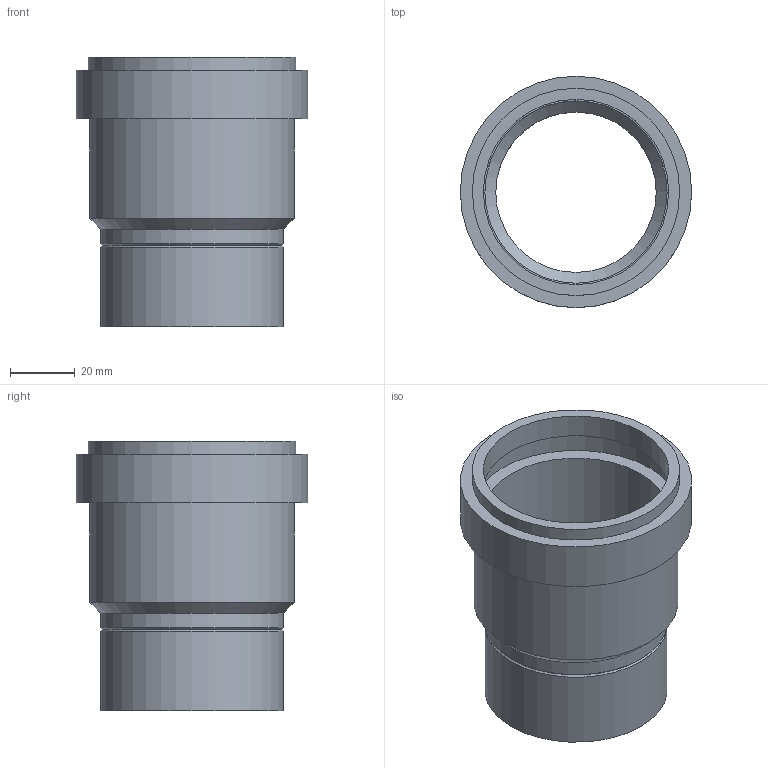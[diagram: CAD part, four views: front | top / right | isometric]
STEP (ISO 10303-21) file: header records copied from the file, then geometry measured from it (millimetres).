
FILE_DESCRIPTION(/* description */ (''),/* implementation_level */ '2;1');
FILE_NAME(/* name */ 'C:\Geberit-Teile\Export 2019\360.779.16.3\stp\363779.stp',/* time_stamp */ '2019-06-06T10:45:07+02:00',/* author */ ('JANAN'),/* organization */ (''),/* preprocessor_version */ 'ST-DEVELOPER v16.13',/* originating_system */ 'Autodesk Inventor 2018',/* authorisation */ '');
FILE_SCHEMA (('AUTOMOTIVE_DESIGN { 1 0 10303 214 3 1 1 }'));
Length unit declared in the file: millimetre
Products named in the file (1): StMuf mit LipDicht PE-HD d56 L8.3
Bounding box: 71.3 x 71.3 x 83 mm (x, y, z)
Volume: 57741 mm3; surface area: 35272.8 mm2
Topology: 1 solids, 1 shells, 19 faces, 34 edges, 21 vertices
Faces by surface type: cylinder 9, plane 6, cone 4
Full cylindrical faces by diameter (mm): 49.45 x1, 56.2 x1, 56.25 x2, 57.1 x1, 63 x1, 63.9 x1, 64.5 x1, 71.3 x1
Entity records: 446 total; most frequent: DIRECTION 78, CARTESIAN_POINT 58, AXIS2_PLACEMENT_3D 39, EDGE_LOOP 38, ORIENTED_EDGE 38, STYLED_ITEM 20, FACE_BOUND 19, FACE_OUTER_BOUND 19
